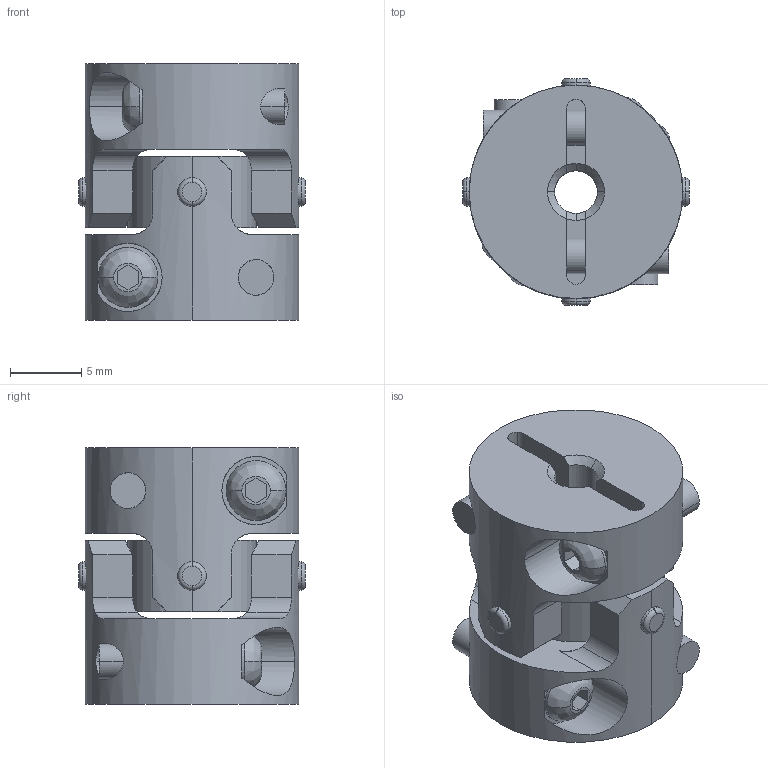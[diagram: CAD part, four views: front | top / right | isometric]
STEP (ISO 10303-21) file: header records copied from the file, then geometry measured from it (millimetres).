
FILE_DESCRIPTION((''),'2;1');
FILE_NAME('UA-15C-6×6.stp','2017-07-12T22:29:51',(''),(''),'AutoCAD STEP 2000i','AutoCAD 2000i',', , ');
FILE_SCHEMA(('CONFIG_CONTROL_DESIGN'));
Length unit declared in the file: millimetre
Products named in the file (8): UA-15C-6×6; 忣兜1; UA-1502-D06-1; BTN-M2.5; UA-1502-D06; UA-1502-D03-1; UA-1502-D03; UA15-SEN
Assembly tree (10 placements, depth 3):
  UA-15C-6×6
    忣兜1
    UA-1502-D06-1
      BTN-M2.5
    UA-1502-D06
      BTN-M2.5
    UA-1502-D03-1
      BTN-M2.5
    UA-1502-D03
      BTN-M2.5
    UA15-SEN
Bounding box: 15.94 x 15.94 x 18 mm (x, y, z)
Volume: 2381.9 mm3; surface area: 2365.3 mm2
Topology: 1 solids, 1 shells, 214 faces, 566 edges, 368 vertices
Faces by surface type: cylinder 104, plane 78, cone 16, torus 8, bspline 8
Entity records: 8235 total; most frequent: CARTESIAN_POINT 2747, ORIENTED_EDGE 1132, DIRECTION 1104, EDGE_CURVE 566, AXIS2_PLACEMENT_3D 429, VERTEX_POINT 368, VECTOR 246, LINE 246
